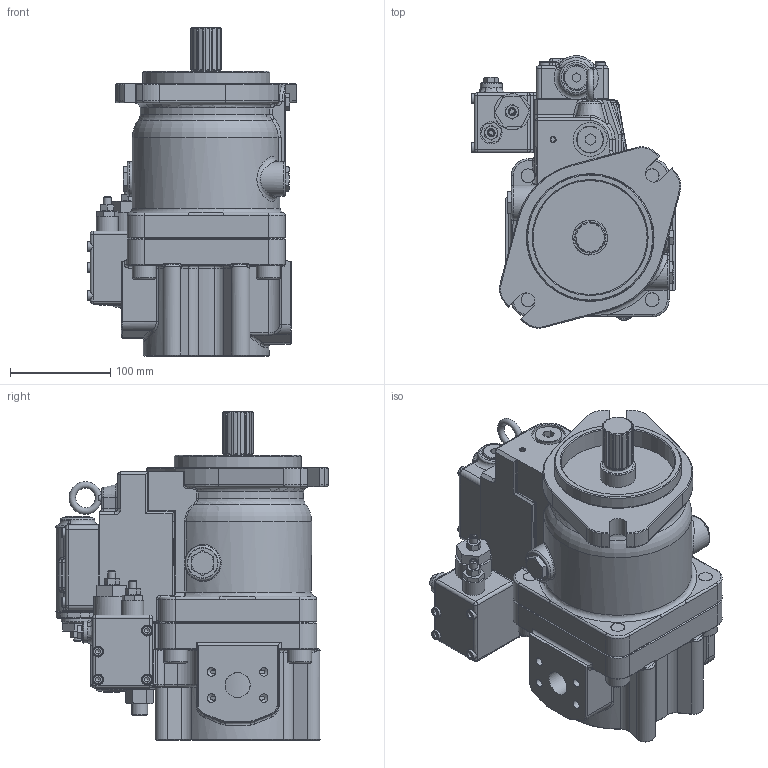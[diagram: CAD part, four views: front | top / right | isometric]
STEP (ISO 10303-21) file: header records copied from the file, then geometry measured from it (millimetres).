
FILE_DESCRIPTION((''),'2;1');
FILE_NAME('I:\3D Step files\Approved for WEB\K3V\K3VL80B 1ARSS L0 1-L1.stp','2011-05-06T12:44:10',('mnorman'),(''),'Autodesk Inventor 2011','Autodesk Inventor 2011','');
FILE_SCHEMA(('AUTOMOTIVE_DESIGN { 1 0 10303 214 1 1 1 1 }'));
Length unit declared in the file: millimetre
Products named in the file (1): Part2
Bounding box: 209.73 x 272.66 x 328 mm (x, y, z)
Volume: 6544361.5 mm3; surface area: 434514.3 mm2
Topology: 29 solids, 29 shells, 1474 faces, 3471 edges, 2088 vertices
Faces by surface type: plane 560, cylinder 394, cone 257, bspline 131, torus 111, sphere 21
Full cylindrical faces by diameter (mm): 4.917 x8, 6 x9, 6.5 x4, 6.6 x4, 6.647 x2, 8 x5, 8.376 x15, 10 x8, 10.106 x4, 11 x8, 11.63 x1, 12.489 x2, 13.835 x4, 16 x7, 17.294 x2, 18 x4, 21 x1, 22 x2, 24 x6, 25 x1, 26 x5, 26.5 x1, 27 x1, 30 x3, 33 x2, 34 x1, 35 x2, 36 x1, 37 x1, 39 x1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
Entity records: 46591 total; most frequent: CARTESIAN_POINT 13901, DIRECTION 6405, ORIENTED_EDGE 6298, EDGE_CURVE 3149, AXIS2_PLACEMENT_3D 2591, VERTEX_POINT 1998, EDGE_LOOP 1769, STYLED_ITEM 1504
